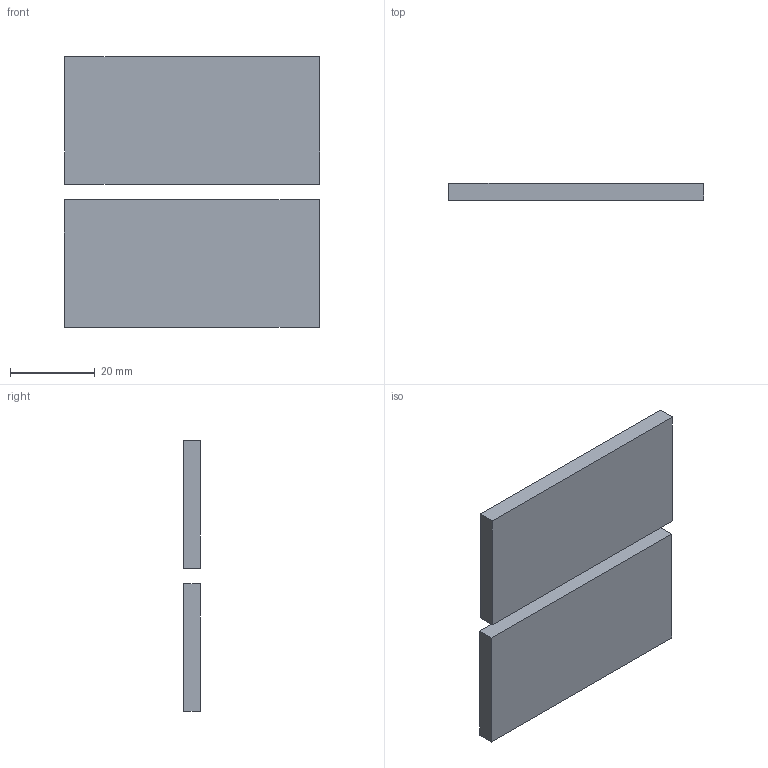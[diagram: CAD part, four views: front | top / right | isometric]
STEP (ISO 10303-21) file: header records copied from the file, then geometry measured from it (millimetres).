
FILE_DESCRIPTION(/* description */ (''),/* implementation_level */ '2;1');
FILE_NAME(/* name */ '//file.canterbury.ac.nz/user/J/jme174/Home/Documents/1) Reports, Presentations etc/1) Publications/Transistor valves 2019/Supplementary information/190 R1 189 R2 Flow rate screening v21.step',/* time_stamp */ '2020-01-14T15:00:30+13:00',/* author */ (''),/* organization */ (''),/* preprocessor_version */ 'ST-DEVELOPER v18',/* originating_system */ 'Autodesk Translation Framework v8.12.0.6',/* authorisation */ '');
FILE_SCHEMA (('AUTOMOTIVE_DESIGN { 1 0 10303 214 3 1 1 }'));
Products named in the file (2): 190 R1 189 R2 Flow rate screening; 189 Don't use this file Flow rate screening R2
Bounding box: 60.11 x 4 x 63.73 mm (x, y, z)
Volume: 14276 mm3; surface area: 9898.9 mm2
Topology: 2 solids, 2 shells, 2937 faces, 8760 edges, 5838 vertices
Faces by surface type: plane 1907, cylinder 1030
Entity records: 98654 total; most frequent: CARTESIAN_POINT 17538, ORIENTED_EDGE 17520, DIRECTION 16700, EDGE_CURVE 8760, LINE 6700, VECTOR 6700, VERTEX_POINT 5838, AXIS2_PLACEMENT_3D 5000
